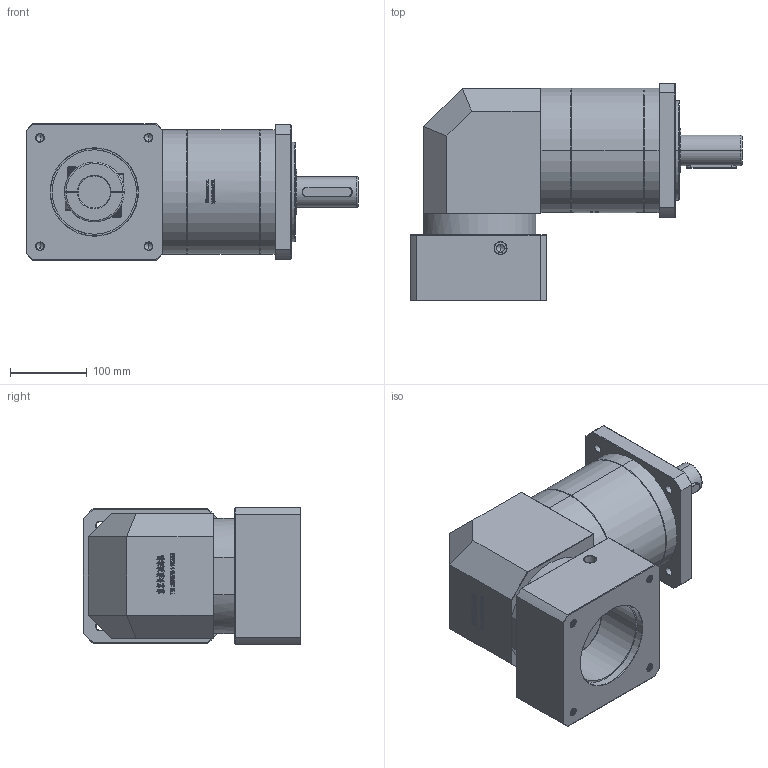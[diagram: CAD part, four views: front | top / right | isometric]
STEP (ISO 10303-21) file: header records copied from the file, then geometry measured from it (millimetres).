
FILE_DESCRIPTION (( 'STEP AP214' ), '1' );
FILE_NAME ('ZFR160A-D40-L3-42-114.3-200-M12.step', '2023-03-22T11:46:36', ( '' ), ( '' ), 'SwSTEP 2.0', 'SolidWorks 2016', '' );
FILE_SCHEMA (( 'AUTOMOTIVE_DESIGN' ));
Length unit declared in the file: millimetre
Products named in the file (1): ZFR160A-D40-L3-42-114.3-200-M12
Bounding box: 432.7 x 283.5 x 178 mm (x, y, z)
Volume: 9559409.2 mm3; surface area: 543888.8 mm2
Topology: 6 solids, 6 shells, 2508 faces, 6593 edges, 4239 vertices
Faces by surface type: plane 1273, bspline 497, cylinder 403, cone 313, torus 22
Entity records: 142117 total; most frequent: CARTESIAN_POINT 56955, ORIENTED_EDGE 13126, DIRECTION 10006, EDGE_CURVE 6563, VERTEX_POINT 4239, VECTOR 4152, LINE 4152, AXIS2_PLACEMENT_3D 2927
